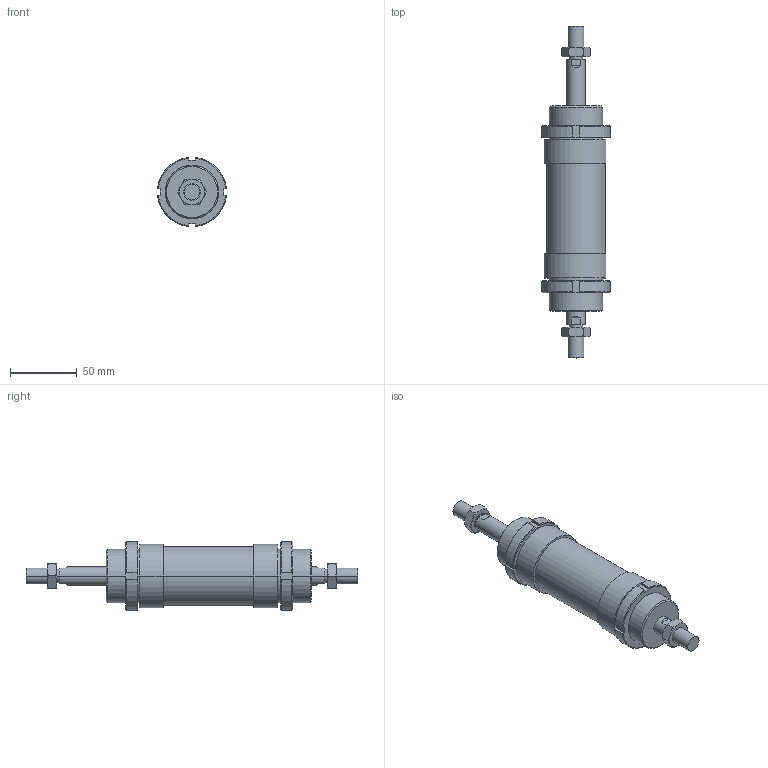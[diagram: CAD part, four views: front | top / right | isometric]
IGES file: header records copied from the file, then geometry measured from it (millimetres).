
Global section: file name: No Iges File Name specified; native system: AutoDesk Inventor R6.0; preprocessor: AutoDesk Inventor Iges Exporter R6.0; author: No Author specified; organization: No Organization specified; date: 20030403.072801; units: millimetre
Bounding box: 51.76 x 249 x 51.76 mm (x, y, z)
Volume: 259416.7 mm3; surface area: 54271.9 mm2
Topology: 6 solids, 6 shells, 182 faces, 424 edges, 264 vertices
Faces by surface type: plane 66, cone 52, bspline 30, cylinder 28, revolution 6
